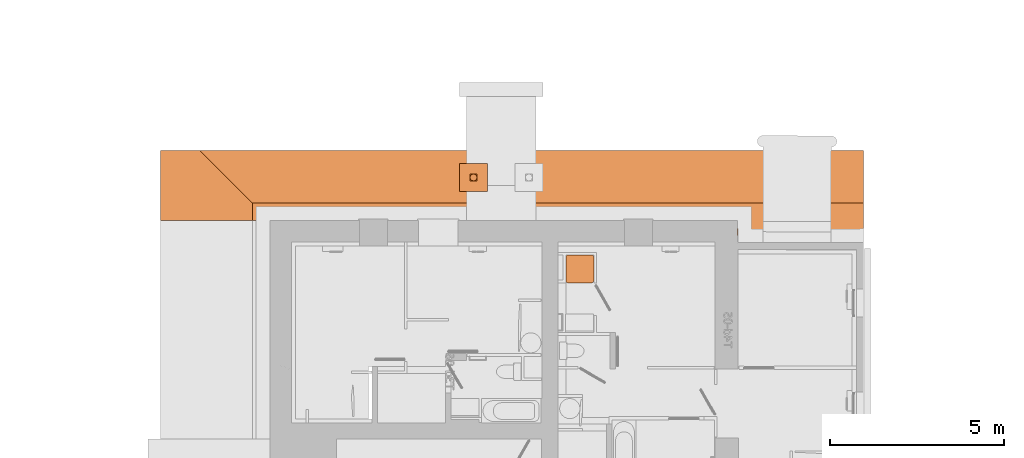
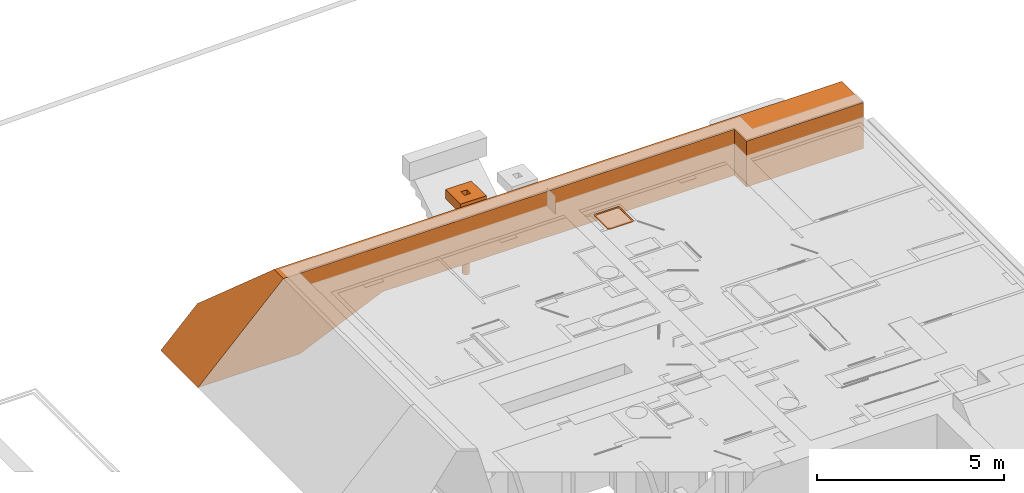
# Not in any storey, part 20 of 22: 3 proxies.
"""IFC4 model written with IfcOpenShell, lengths in metres."""

from ifc_helpers import new_model, si_unit, direction, origin_with_axes, place, context, subcontext, project, faceted_brep, element, save


model = new_model("IFC4")

# Units and contexts
model_context = context("Model", 3, precision=1e-05, world=origin_with_axes(), true_north=direction((1.0, 0.0)))
body_context = subcontext(model_context, "Body", "Model", "MODEL_VIEW")
ifc_project = project(units=[si_unit("LENGTHUNIT", "METRE"), si_unit("AREAUNIT", "SQUARE_METRE"), si_unit("VOLUMEUNIT", "CUBIC_METRE"), si_unit("MASSUNIT", "GRAM", prefix="KILO"), si_unit("TIMEUNIT", "SECOND"), si_unit("PLANEANGLEUNIT", "RADIAN"), si_unit("SOLIDANGLEUNIT", "STERADIAN")], contexts=[model_context])

# Proxies
placement = place(None, origin_with_axes())
element("IfcBuildingElementProxy", 1, at=placement, Name="Bloc Douche 2", PredefinedType="NOTDEFINED", context=body_context, shape_type="AdvancedBrep", body=[
    faceted_brep([(148.793105, 29.085943, 2.31), (148.793105, 28.417131, 2.31), (148.793268, 28.412706, 2.31), (148.793719, 28.408301, 2.31), (148.794455, 28.403934, 2.31), (148.795473, 28.399625, 2.31), (148.79677, 28.395391, 2.31), (148.798339, 28.39125, 2.31), (148.800175, 28.38722, 2.31), (148.802269, 28.383318, 2.31), (148.804612, 28.379561, 2.31), (148.807194, 28.375964, 2.31), (148.810005, 28.372542, 2.31), (148.813033, 28.369311, 2.31), (148.816264, 28.366283, 2.31), (148.819685, 28.363472, 2.31), (148.823282, 28.36089, 2.31), (148.82704, 28.358546, 2.31), (148.830942, 28.356453, 2.31), (148.834972, 28.354617, 2.31), (148.839112, 28.353048, 2.31), (148.843346, 28.351751, 2.31), (148.847656, 28.350732, 2.31), (148.852022, 28.349996, 2.31), (148.856427, 28.349546, 2.31), (148.860853, 28.349402, 2.31), (149.529666, 28.349402, 2.31), (149.534091, 28.349546, 2.31), (149.538496, 28.349996, 2.31), (149.542863, 28.350732, 2.31), (149.547172, 28.351751, 2.31), (149.551406, 28.353048, 2.31), (149.555546, 28.354617, 2.31), (149.559576, 28.356453, 2.31), (149.563478, 28.358547, 2.31), (149.567235, 28.36089, 2.31), (149.570832, 28.363472, 2.31), (149.574254, 28.366283, 2.31), (149.577485, 28.369311, 2.31), (149.580513, 28.372542, 2.31), (149.583324, 28.375964, 2.31), (149.585906, 28.379561, 2.31), (149.588249, 28.383319, 2.31), (149.590343, 28.38722, 2.31), (149.592178, 28.39125, 2.31), (149.593747, 28.395391, 2.31), (149.595044, 28.399625, 2.31), (149.596063, 28.403934, 2.31), (149.596799, 28.408301, 2.31), (149.597249, 28.412706, 2.31), (149.597412, 28.417131, 2.31), (149.597412, 29.085943, 2.31), (149.597249, 29.090368, 2.31), (149.596799, 29.094774, 2.31), (149.596063, 29.09914, 2.31), (149.595044, 29.10345, 2.31), (149.593748, 29.107684, 2.31), (149.592178, 29.111824, 2.31), (149.590343, 29.115854, 2.31), (149.588249, 29.119756, 2.31), (149.585906, 29.123514, 2.31), (149.583324, 29.127111, 2.31), (149.580513, 29.130532, 2.31), (149.577485, 29.133764, 2.31), (149.574254, 29.136791, 2.31), (149.570833, 29.139602, 2.31), (149.567236, 29.142185, 2.31), (149.563478, 29.144528, 2.31), (149.559576, 29.146622, 2.31), (149.555547, 29.148457, 2.31), (149.551406, 29.150027, 2.31), (149.547172, 29.151323, 2.31), (149.542863, 29.152342, 2.31), (149.538496, 29.153078, 2.31), (149.534091, 29.153529, 2.31), (149.529666, 29.153673, 2.31), (148.860852, 29.153692, 2.31), (148.856427, 29.153529, 2.31), (148.852022, 29.153078, 2.31), (148.847656, 29.152342, 2.31), (148.843346, 29.151324, 2.31), (148.839112, 29.150027, 2.31), (148.834971, 29.148457, 2.31), (148.830942, 29.146622, 2.31), (148.82704, 29.144528, 2.31), (148.823282, 29.142185, 2.31), (148.819685, 29.139603, 2.31), (148.816264, 29.136792, 2.31), (148.813032, 29.133764, 2.31), (148.810005, 29.130533, 2.31), (148.807194, 29.127111, 2.31), (148.804611, 29.123514, 2.31), (148.802268, 29.119756, 2.31), (148.800175, 29.115854, 2.31), (148.798339, 29.111824, 2.31), (148.79677, 29.107684, 2.31), (148.795473, 29.10345, 2.31), (148.794455, 29.09914, 2.31), (148.793719, 29.094774, 2.31), (148.793268, 29.090369, 2.31), (148.835455, 28.458941, 2.31), (148.835435, 28.459459, 2.31), (148.835455, 29.035147, 2.31), (148.835599, 29.039572, 2.31), (148.836049, 29.043978, 2.31), (148.836785, 29.048344, 2.31), (148.837803, 29.052654, 2.31), (148.8391, 29.056888, 2.31), (148.840669, 29.061028, 2.31), (148.842505, 29.065058, 2.31), (148.844598, 29.06896, 2.31), (148.846941, 29.072718, 2.31), (148.849524, 29.076315, 2.31), (148.852335, 29.079736, 2.31), (148.855362, 29.082968, 2.31), (148.858594, 29.085995, 2.31), (148.862015, 29.088806, 2.31), (148.865612, 29.091389, 2.31), (148.869369, 29.093732, 2.31), (148.873271, 29.095826, 2.31), (148.877301, 29.097661, 2.31), (148.881442, 29.099231, 2.31), (148.885676, 29.100527, 2.31), (148.889985, 29.101546, 2.31), (148.894352, 29.102282, 2.31), (148.898757, 29.102733, 2.31), (148.903182, 29.102896, 2.31), (149.47887, 29.102877, 2.31), (149.483295, 29.102733, 2.31), (149.4877, 29.102282, 2.31), (149.492067, 29.101546, 2.31), (149.496376, 29.100527, 2.31), (149.50061, 29.099231, 2.31), (149.504751, 29.097661, 2.31), (149.508781, 29.095826, 2.31), (149.512682, 29.093732, 2.31), (149.51644, 29.091389, 2.31), (149.520037, 29.088806, 2.31), (149.523458, 29.085995, 2.31), (149.52669, 29.082968, 2.31), (149.529717, 29.079736, 2.31), (149.532528, 29.076315, 2.31), (149.535111, 29.072718, 2.31), (149.537454, 29.06896, 2.31), (149.539548, 29.065058, 2.31), (149.541383, 29.061028, 2.31), (149.542952, 29.056888, 2.31), (149.544249, 29.052654, 2.31), (149.545268, 29.048344, 2.31), (149.546004, 29.043978, 2.31), (149.546454, 29.039572, 2.31), (149.546617, 29.035147, 2.31), (149.546598, 28.459459, 2.31), (149.546454, 28.455034, 2.31), (149.546003, 28.450629, 2.31), (149.545267, 28.446263, 2.31), (149.544249, 28.441953, 2.31), (149.542952, 28.43772, 2.31), (149.541382, 28.433579, 2.31), (149.539547, 28.429549, 2.31), (149.537453, 28.425648, 2.31), (149.53511, 28.42189, 2.31), (149.532528, 28.418293, 2.31), (149.529717, 28.414872, 2.31), (149.526689, 28.41164, 2.31), (149.523458, 28.408613, 2.31), (149.520036, 28.405802, 2.31), (149.516439, 28.40322, 2.31), (149.512682, 28.400877, 2.31), (149.50878, 28.398783, 2.31), (149.50475, 28.396948, 2.31), (149.50061, 28.395378, 2.31), (149.496376, 28.394081, 2.31), (149.492066, 28.393063, 2.31), (149.4877, 28.392327, 2.31), (149.483295, 28.391876, 2.31), (149.47887, 28.391732, 2.31), (148.903182, 28.391732, 2.31), (148.898757, 28.391876, 2.31), (148.894352, 28.392327, 2.31), (148.889985, 28.393063, 2.31), (148.885676, 28.394081, 2.31), (148.881442, 28.395378, 2.31), (148.877302, 28.396948, 2.31), (148.873272, 28.398783, 2.31), (148.86937, 28.400877, 2.31), (148.865613, 28.40322, 2.31), (148.862016, 28.405802, 2.31), (148.858594, 28.408613, 2.31), (148.855363, 28.411641, 2.31), (148.852336, 28.414872, 2.31), (148.849525, 28.418293, 2.31), (148.846942, 28.42189, 2.31), (148.844599, 28.425648, 2.31), (148.842506, 28.429549, 2.31), (148.84067, 28.433579, 2.31), (148.839101, 28.43772, 2.31), (148.837804, 28.441954, 2.31), (148.836785, 28.446263, 2.31), (148.836049, 28.450629, 2.31), (148.835599, 28.455034, 2.31), (148.793105, 28.417131, 2.28), (148.793105, 29.085943, 2.28), (148.793268, 29.090369, 2.28), (148.793719, 29.094774, 2.28), (148.794455, 29.09914, 2.28), (148.795473, 29.10345, 2.28), (148.79677, 29.107684, 2.28), (148.798339, 29.111824, 2.28), (148.800175, 29.115854, 2.28), (148.802268, 29.119756, 2.28), (148.804611, 29.123514, 2.28), (148.807194, 29.127111, 2.28), (148.810005, 29.130533, 2.28), (148.813032, 29.133764, 2.28), (148.816264, 29.136792, 2.28), (148.819685, 29.139603, 2.28), (148.823282, 29.142185, 2.28), (148.82704, 29.144528, 2.28), (148.830942, 29.146622, 2.28), (148.834971, 29.148457, 2.28), (148.839112, 29.150027, 2.28), (148.843346, 29.151324, 2.28), (148.847656, 29.152342, 2.28), (148.852022, 29.153078, 2.28), (148.856427, 29.153529, 2.28), (148.860852, 29.153692, 2.28), (149.529666, 29.153673, 2.28), (149.534091, 29.153529, 2.28), (149.538496, 29.153078, 2.28), (149.542863, 29.152342, 2.28), (149.547172, 29.151323, 2.28), (149.551406, 29.150027, 2.28), (149.555547, 29.148457, 2.28), (149.559576, 29.146622, 2.28), (149.563478, 29.144528, 2.28), (149.567236, 29.142185, 2.28), (149.570833, 29.139602, 2.28), (149.574254, 29.136791, 2.28), (149.577485, 29.133764, 2.28), (149.580513, 29.130532, 2.28), (149.583324, 29.127111, 2.28), (149.585906, 29.123514, 2.28), (149.588249, 29.119756, 2.28), (149.590343, 29.115854, 2.28), (149.592178, 29.111824, 2.28), (149.593748, 29.107684, 2.28), (149.595044, 29.10345, 2.28), (149.596063, 29.09914, 2.28), (149.596799, 29.094774, 2.28), (149.597249, 29.090368, 2.28), (149.597412, 29.085943, 2.28), (149.597412, 28.417131, 2.28), (149.597249, 28.412706, 2.28), (149.596799, 28.408301, 2.28), (149.596063, 28.403934, 2.28), (149.595044, 28.399625, 2.28), (149.593747, 28.395391, 2.28), (149.592178, 28.39125, 2.28), (149.590343, 28.38722, 2.28), (149.588249, 28.383319, 2.28), (149.585906, 28.379561, 2.28), (149.583324, 28.375964, 2.28), (149.580513, 28.372542, 2.28), (149.577485, 28.369311, 2.28), (149.574254, 28.366283, 2.28), (149.570832, 28.363472, 2.28), (149.567235, 28.36089, 2.28), (149.563478, 28.358547, 2.28), (149.559576, 28.356453, 2.28), (149.555546, 28.354617, 2.28), (149.551406, 28.353048, 2.28), (149.547172, 28.351751, 2.28), (149.542863, 28.350732, 2.28), (149.538496, 28.349996, 2.28), (149.534091, 28.349546, 2.28), (149.529666, 28.349402, 2.28), (148.860853, 28.349402, 2.28), (148.856427, 28.349546, 2.28), (148.852022, 28.349996, 2.28), (148.847656, 28.350732, 2.28), (148.843346, 28.351751, 2.28), (148.839112, 28.353048, 2.28), (148.834972, 28.354617, 2.28), (148.830942, 28.356453, 2.28), (148.82704, 28.358546, 2.28), (148.823282, 28.36089, 2.28), (148.819685, 28.363472, 2.28), (148.816264, 28.366283, 2.28), (148.813033, 28.369311, 2.28), (148.810005, 28.372542, 2.28), (148.807194, 28.375964, 2.28), (148.804612, 28.379561, 2.28), (148.802269, 28.383318, 2.28), (148.800175, 28.38722, 2.28), (148.798339, 28.39125, 2.28), (148.79677, 28.395391, 2.28), (148.795473, 28.399625, 2.28), (148.794455, 28.403934, 2.28), (148.793719, 28.408301, 2.28), (148.793268, 28.412706, 2.28), (148.835435, 28.459459, 2.28), (148.835455, 28.458941, 2.28), (148.835599, 28.455034, 2.28), (148.836049, 28.450629, 2.28), (148.836785, 28.446263, 2.28), (148.837804, 28.441954, 2.28), (148.839101, 28.43772, 2.28), (148.84067, 28.433579, 2.28), (148.842506, 28.429549, 2.28), (148.844599, 28.425648, 2.28), (148.846942, 28.42189, 2.28), (148.849525, 28.418293, 2.28), (148.852336, 28.414872, 2.28), (148.855363, 28.411641, 2.28), (148.858594, 28.408613, 2.28), (148.862016, 28.405802, 2.28), (148.865613, 28.40322, 2.28), (148.86937, 28.400877, 2.28), (148.873272, 28.398783, 2.28), (148.877302, 28.396948, 2.28), (148.881442, 28.395378, 2.28), (148.885676, 28.394081, 2.28), (148.889985, 28.393063, 2.28), (148.894352, 28.392327, 2.28), (148.898757, 28.391876, 2.28), (148.903182, 28.391732, 2.28), (149.47887, 28.391732, 2.28), (149.483295, 28.391876, 2.28), (149.4877, 28.392327, 2.28), (149.492066, 28.393063, 2.28), (149.496376, 28.394081, 2.28), (149.50061, 28.395378, 2.28), (149.50475, 28.396948, 2.28), (149.50878, 28.398783, 2.28), (149.512682, 28.400877, 2.28), (149.516439, 28.40322, 2.28), (149.520036, 28.405802, 2.28), (149.523458, 28.408613, 2.28), (149.526689, 28.41164, 2.28), (149.529717, 28.414872, 2.28), (149.532528, 28.418293, 2.28), (149.53511, 28.42189, 2.28), (149.537453, 28.425648, 2.28), (149.539547, 28.429549, 2.28), (149.541382, 28.433579, 2.28), (149.542952, 28.43772, 2.28), (149.544249, 28.441953, 2.28), (149.545267, 28.446263, 2.28), (149.546003, 28.450629, 2.28), (149.546454, 28.455034, 2.28), (149.546598, 28.459459, 2.28), (149.546617, 29.035147, 2.28), (149.546454, 29.039572, 2.28), (149.546004, 29.043978, 2.28), (149.545268, 29.048344, 2.28), (149.544249, 29.052654, 2.28), (149.542952, 29.056888, 2.28), (149.541383, 29.061028, 2.28), (149.539548, 29.065058, 2.28), (149.537454, 29.06896, 2.28), (149.535111, 29.072718, 2.28), (149.532528, 29.076315, 2.28), (149.529717, 29.079736, 2.28), (149.52669, 29.082968, 2.28), (149.523458, 29.085995, 2.28), (149.520037, 29.088806, 2.28), (149.51644, 29.091389, 2.28), (149.512682, 29.093732, 2.28), (149.508781, 29.095826, 2.28), (149.504751, 29.097661, 2.28), (149.50061, 29.099231, 2.28), (149.496376, 29.100527, 2.28), (149.492067, 29.101546, 2.28), (149.4877, 29.102282, 2.28), (149.483295, 29.102733, 2.28), (149.47887, 29.102877, 2.28), (148.903182, 29.102896, 2.28), (148.898757, 29.102733, 2.28), (148.894352, 29.102282, 2.28), (148.889985, 29.101546, 2.28), (148.885676, 29.100527, 2.28), (148.881442, 29.099231, 2.28), (148.877301, 29.097661, 2.28), (148.873271, 29.095826, 2.28), (148.869369, 29.093732, 2.28), (148.865612, 29.091389, 2.28), (148.862015, 29.088806, 2.28), (148.858594, 29.085995, 2.28), (148.855362, 29.082968, 2.28), (148.852335, 29.079736, 2.28), (148.849524, 29.076315, 2.28), (148.846941, 29.072718, 2.28), (148.844598, 29.06896, 2.28), (148.842505, 29.065058, 2.28), (148.840669, 29.061028, 2.28), (148.8391, 29.056888, 2.28), (148.837803, 29.052654, 2.28), (148.836785, 29.048344, 2.28), (148.836049, 29.043978, 2.28), (148.835599, 29.039572, 2.28), (148.835455, 29.035147, 2.28), (148.835435, 28.459459, 2.3), (148.835455, 28.458941, 2.3), (148.835599, 28.455034, 2.3), (148.836049, 28.450629, 2.3), (148.836785, 28.446263, 2.3), (148.837804, 28.441954, 2.3), (148.839101, 28.43772, 2.3), (148.84067, 28.433579, 2.3), (148.842506, 28.429549, 2.3), (148.844599, 28.425648, 2.3), (148.846942, 28.42189, 2.3), (148.849525, 28.418293, 2.3), (148.852336, 28.414872, 2.3), (148.855363, 28.411641, 2.3), (148.858594, 28.408613, 2.3), (148.862016, 28.405802, 2.3), (148.865613, 28.40322, 2.3), (148.86937, 28.400877, 2.3), (148.873272, 28.398783, 2.3), (148.877302, 28.396948, 2.3), (148.881442, 28.395378, 2.3), (148.885676, 28.394081, 2.3), (148.889985, 28.393063, 2.3), (148.894352, 28.392327, 2.3), (148.898757, 28.391876, 2.3), (148.903182, 28.391732, 2.3), (149.47887, 28.391732, 2.3), (149.483295, 28.391876, 2.3), (149.4877, 28.392327, 2.3), (149.492066, 28.393063, 2.3), (149.496376, 28.394081, 2.3), (149.50061, 28.395378, 2.3), (149.50475, 28.396948, 2.3), (149.50878, 28.398783, 2.3), (149.512682, 28.400877, 2.3), (149.516439, 28.40322, 2.3), (149.520036, 28.405802, 2.3), (149.523458, 28.408613, 2.3), (149.526689, 28.41164, 2.3), (149.529717, 28.414872, 2.3), (149.532528, 28.418293, 2.3), (149.53511, 28.42189, 2.3), (149.537453, 28.425648, 2.3), (149.539547, 28.429549, 2.3), (149.541382, 28.433579, 2.3), (149.542952, 28.43772, 2.3), (149.544249, 28.441953, 2.3), (149.545267, 28.446263, 2.3), (149.546003, 28.450629, 2.3), (149.546454, 28.455034, 2.3), (149.546598, 28.459459, 2.3), (149.546617, 29.035147, 2.3), (149.546454, 29.039572, 2.3), (149.546004, 29.043978, 2.3), (149.545268, 29.048344, 2.3), (149.544249, 29.052654, 2.3), (149.542952, 29.056888, 2.3), (149.541383, 29.061028, 2.3), (149.539548, 29.065058, 2.3), (149.537454, 29.06896, 2.3), (149.535111, 29.072718, 2.3), (149.532528, 29.076315, 2.3), (149.529717, 29.079736, 2.3), (149.52669, 29.082968, 2.3), (149.523458, 29.085995, 2.3), (149.520037, 29.088806, 2.3), (149.51644, 29.091389, 2.3), (149.512682, 29.093732, 2.3), (149.508781, 29.095826, 2.3), (149.504751, 29.097661, 2.3), (149.50061, 29.099231, 2.3), (149.496376, 29.100527, 2.3), (149.492067, 29.101546, 2.3), (149.4877, 29.102282, 2.3), (149.483295, 29.102733, 2.3), (149.47887, 29.102877, 2.3), (148.903182, 29.102896, 2.3), (148.898757, 29.102733, 2.3), (148.894352, 29.102282, 2.3), (148.889985, 29.101546, 2.3), (148.885676, 29.100527, 2.3), (148.881442, 29.099231, 2.3), (148.877301, 29.097661, 2.3), (148.873271, 29.095826, 2.3), (148.869369, 29.093732, 2.3), (148.865612, 29.091389, 2.3), (148.862015, 29.088806, 2.3), (148.858594, 29.085995, 2.3), (148.855362, 29.082968, 2.3), (148.852335, 29.079736, 2.3), (148.849524, 29.076315, 2.3), (148.846941, 29.072718, 2.3), (148.844598, 29.06896, 2.3), (148.842505, 29.065058, 2.3), (148.840669, 29.061028, 2.3), (148.8391, 29.056888, 2.3), (148.837803, 29.052654, 2.3), (148.836785, 29.048344, 2.3), (148.836049, 29.043978, 2.3), (148.835599, 29.039572, 2.3), (148.835455, 29.035147, 2.3)], [[[0, 1, 2, 3, 4, 5, 6, 7, 8, 9, 10, 11, 12, 13, 14, 15, 16, 17, 18, 19, 20, 21, 22, 23, 24, 25, 26, 27, 28, 29, 30, 31, 32, 33, 34, 35, 36, 37, 38, 39, 40, 41, 42, 43, 44, 45, 46, 47, 48, 49, 50, 51, 52, 53, 54, 55, 56, 57, 58, 59, 60, 61, 62, 63, 64, 65, 66, 67, 68, 69, 70, 71, 72, 73, 74, 75, 76, 77, 78, 79, 80, 81, 82, 83, 84, 85, 86, 87, 88, 89, 90, 91, 92, 93, 94, 95, 96, 97, 98, 99], [100, 101, 102, 103, 104, 105, 106, 107, 108, 109, 110, 111, 112, 113, 114, 115, 116, 117, 118, 119, 120, 121, 122, 123, 124, 125, 126, 127, 128, 129, 130, 131, 132, 133, 134, 135, 136, 137, 138, 139, 140, 141, 142, 143, 144, 145, 146, 147, 148, 149, 150, 151, 152, 153, 154, 155, 156, 157, 158, 159, 160, 161, 162, 163, 164, 165, 166, 167, 168, 169, 170, 171, 172, 173, 174, 175, 176, 177, 178, 179, 180, 181, 182, 183, 184, 185, 186, 187, 188, 189, 190, 191, 192, 193, 194, 195, 196, 197, 198, 199, 200]], [[201, 202, 203, 204, 205, 206, 207, 208, 209, 210, 211, 212, 213, 214, 215, 216, 217, 218, 219, 220, 221, 222, 223, 224, 225, 226, 227, 228, 229, 230, 231, 232, 233, 234, 235, 236, 237, 238, 239, 240, 241, 242, 243, 244, 245, 246, 247, 248, 249, 250, 251, 252, 253, 254, 255, 256, 257, 258, 259, 260, 261, 262, 263, 264, 265, 266, 267, 268, 269, 270, 271, 272, 273, 274, 275, 276, 277, 278, 279, 280, 281, 282, 283, 284, 285, 286, 287, 288, 289, 290, 291, 292, 293, 294, 295, 296, 297, 298, 299, 300], [301, 302, 303, 304, 305, 306, 307, 308, 309, 310, 311, 312, 313, 314, 315, 316, 317, 318, 319, 320, 321, 322, 323, 324, 325, 326, 327, 328, 329, 330, 331, 332, 333, 334, 335, 336, 337, 338, 339, 340, 341, 342, 343, 344, 345, 346, 347, 348, 349, 350, 351, 352, 353, 354, 355, 356, 357, 358, 359, 360, 361, 362, 363, 364, 365, 366, 367, 368, 369, 370, 371, 372, 373, 374, 375, 376, 377, 378, 379, 380, 381, 382, 383, 384, 385, 386, 387, 388, 389, 390, 391, 392, 393, 394, 395, 396, 397, 398, 399, 400, 401]], [[1, 0, 202, 201]], [[0, 99, 203, 202]], [[99, 98, 204, 203]], [[98, 97, 205, 204]], [[97, 96, 206, 205]], [[96, 95, 207, 206]], [[95, 94, 208, 207]], [[94, 93, 209, 208]], [[93, 92, 210, 209]], [[92, 91, 211, 210]], [[91, 90, 212, 211]], [[90, 89, 213, 212]], [[89, 88, 214, 213]], [[88, 87, 215, 214]], [[87, 86, 216, 215]], [[86, 85, 217, 216]], [[85, 84, 218, 217]], [[84, 83, 219, 218]], [[83, 82, 220, 219]], [[82, 81, 221, 220]], [[81, 80, 222, 221]], [[80, 79, 223, 222]], [[79, 78, 224, 223]], [[78, 77, 225, 224]], [[77, 76, 226, 225]], [[76, 75, 227, 226]], [[75, 74, 228, 227]], [[74, 73, 229, 228]], [[73, 72, 230, 229]], [[72, 71, 231, 230]], [[71, 70, 232, 231]], [[70, 69, 233, 232]], [[69, 68, 234, 233]], [[68, 67, 235, 234]], [[67, 66, 236, 235]], [[66, 65, 237, 236]], [[65, 64, 238, 237]], [[64, 63, 239, 238]], [[63, 62, 240, 239]], [[62, 61, 241, 240]], [[61, 60, 242, 241]], [[60, 59, 243, 242]], [[59, 58, 244, 243]], [[58, 57, 245, 244]], [[57, 56, 246, 245]], [[56, 55, 247, 246]], [[55, 54, 248, 247]], [[54, 53, 249, 248]], [[53, 52, 250, 249]], [[52, 51, 251, 250]], [[51, 50, 252, 251]], [[50, 49, 253, 252]], [[49, 48, 254, 253]], [[48, 47, 255, 254]], [[47, 46, 256, 255]], [[46, 45, 257, 256]], [[45, 44, 258, 257]], [[44, 43, 259, 258]], [[43, 42, 260, 259]], [[42, 41, 261, 260]], [[41, 40, 262, 261]], [[40, 39, 263, 262]], [[39, 38, 264, 263]], [[38, 37, 265, 264]], [[37, 36, 266, 265]], [[36, 35, 267, 266]], [[35, 34, 268, 267]], [[34, 33, 269, 268]], [[33, 32, 270, 269]], [[32, 31, 271, 270]], [[31, 30, 272, 271]], [[30, 29, 273, 272]], [[29, 28, 274, 273]], [[28, 27, 275, 274]], [[27, 26, 276, 275]], [[26, 25, 277, 276]], [[25, 24, 278, 277]], [[24, 23, 279, 278]], [[23, 22, 280, 279]], [[22, 21, 281, 280]], [[21, 20, 282, 281]], [[20, 19, 283, 282]], [[19, 18, 284, 283]], [[18, 17, 285, 284]], [[17, 16, 286, 285]], [[16, 15, 287, 286]], [[15, 14, 288, 287]], [[14, 13, 289, 288]], [[13, 12, 290, 289]], [[12, 11, 291, 290]], [[11, 10, 292, 291]], [[10, 9, 293, 292]], [[9, 8, 294, 293]], [[8, 7, 295, 294]], [[7, 6, 296, 295]], [[6, 5, 297, 296]], [[5, 4, 298, 297]], [[4, 3, 299, 298]], [[3, 2, 300, 299]], [[2, 1, 201, 300]], [[301, 402, 403, 302]], [[302, 403, 404, 303]], [[303, 404, 405, 304]], [[304, 405, 406, 305]], [[305, 406, 407, 306]], [[306, 407, 408, 307]], [[307, 408, 409, 308]], [[308, 409, 410, 309]], [[309, 410, 411, 310]], [[310, 411, 412, 311]], [[311, 412, 413, 312]], [[312, 413, 414, 313]], [[313, 414, 415, 314]], [[314, 415, 416, 315]], [[315, 416, 417, 316]], [[316, 417, 418, 317]], [[317, 418, 419, 318]], [[318, 419, 420, 319]], [[319, 420, 421, 320]], [[320, 421, 422, 321]], [[321, 422, 423, 322]], [[322, 423, 424, 323]], [[323, 424, 425, 324]], [[324, 425, 426, 325]], [[325, 426, 427, 326]], [[326, 427, 428, 327]], [[327, 428, 429, 328]], [[328, 429, 430, 329]], [[329, 430, 431, 330]], [[330, 431, 432, 331]], [[331, 432, 433, 332]], [[332, 433, 434, 333]], [[333, 434, 435, 334]], [[334, 435, 436, 335]], [[335, 436, 437, 336]], [[336, 437, 438, 337]], [[337, 438, 439, 338]], [[338, 439, 440, 339]], [[339, 440, 441, 340]], [[340, 441, 442, 341]], [[341, 442, 443, 342]], [[342, 443, 444, 343]], [[343, 444, 445, 344]], [[344, 445, 446, 345]], [[345, 446, 447, 346]], [[346, 447, 448, 347]], [[347, 448, 449, 348]], [[348, 449, 450, 349]], [[349, 450, 451, 350]], [[350, 451, 452, 351]], [[351, 452, 453, 352]], [[352, 453, 454, 353]], [[353, 454, 455, 354]], [[354, 455, 456, 355]], [[355, 456, 457, 356]], [[356, 457, 458, 357]], [[357, 458, 459, 358]], [[358, 459, 460, 359]], [[359, 460, 461, 360]], [[360, 461, 462, 361]], [[361, 462, 463, 362]], [[362, 463, 464, 363]], [[363, 464, 465, 364]], [[364, 465, 466, 365]], [[365, 466, 467, 366]], [[366, 467, 468, 367]], [[367, 468, 469, 368]], [[368, 469, 470, 369]], [[369, 470, 471, 370]], [[370, 471, 472, 371]], [[371, 472, 473, 372]], [[372, 473, 474, 373]], [[373, 474, 475, 374]], [[374, 475, 476, 375]], [[375, 476, 477, 376]], [[376, 477, 478, 377]], [[377, 478, 479, 378]], [[378, 479, 480, 379]], [[379, 480, 481, 380]], [[380, 481, 482, 381]], [[381, 482, 483, 382]], [[382, 483, 484, 383]], [[383, 484, 485, 384]], [[384, 485, 486, 385]], [[385, 486, 487, 386]], [[386, 487, 488, 387]], [[387, 488, 489, 388]], [[388, 489, 490, 389]], [[389, 490, 491, 390]], [[390, 491, 492, 391]], [[391, 492, 493, 392]], [[392, 493, 494, 393]], [[393, 494, 495, 394]], [[394, 495, 496, 395]], [[395, 496, 497, 396]], [[396, 497, 498, 397]], [[397, 498, 499, 398]], [[398, 499, 500, 399]], [[399, 500, 501, 400]], [[400, 501, 502, 401]], [[401, 502, 402, 301]], [[403, 402, 502, 501, 500, 499, 498, 497, 496, 495, 494, 493, 492, 491, 490, 489, 488, 487, 486, 485, 484, 483, 482, 481, 480, 479, 478, 477, 476, 475, 474, 473, 472, 471, 470, 469, 468, 467, 466, 465, 464, 463, 462, 461, 460, 459, 458, 457, 456, 455, 454, 453, 452, 451, 450, 449, 448, 447, 446, 445, 444, 443, 442, 441, 440, 439, 438, 437, 436, 435, 434, 433, 432, 431, 430, 429, 428, 427, 426, 425, 424, 423, 422, 421, 420, 419, 418, 417, 416, 415, 414, 413, 412, 411, 410, 409, 408, 407, 406, 405, 404]], [[101, 100, 403, 402]], [[102, 101, 402, 502]], [[103, 102, 502, 501]], [[104, 103, 501, 500]], [[105, 104, 500, 499]], [[106, 105, 499, 498]], [[107, 106, 498, 497]], [[108, 107, 497, 496]], [[109, 108, 496, 495]], [[110, 109, 495, 494]], [[111, 110, 494, 493]], [[112, 111, 493, 492]], [[113, 112, 492, 491]], [[114, 113, 491, 490]], [[115, 114, 490, 489]], [[116, 115, 489, 488]], [[117, 116, 488, 487]], [[118, 117, 487, 486]], [[119, 118, 486, 485]], [[120, 119, 485, 484]], [[121, 120, 484, 483]], [[122, 121, 483, 482]], [[123, 122, 482, 481]], [[124, 123, 481, 480]], [[125, 124, 480, 479]], [[126, 125, 479, 478]], [[127, 126, 478, 477]], [[128, 127, 477, 476]], [[129, 128, 476, 475]], [[130, 129, 475, 474]], [[131, 130, 474, 473]], [[132, 131, 473, 472]], [[133, 132, 472, 471]], [[134, 133, 471, 470]], [[135, 134, 470, 469]], [[136, 135, 469, 468]], [[137, 136, 468, 467]], [[138, 137, 467, 466]], [[139, 138, 466, 465]], [[140, 139, 465, 464]], [[141, 140, 464, 463]], [[142, 141, 463, 462]], [[143, 142, 462, 461]], [[144, 143, 461, 460]], [[145, 144, 460, 459]], [[146, 145, 459, 458]], [[147, 146, 458, 457]], [[148, 147, 457, 456]], [[149, 148, 456, 455]], [[150, 149, 455, 454]], [[151, 150, 454, 453]], [[152, 151, 453, 452]], [[153, 152, 452, 451]], [[154, 153, 451, 450]], [[155, 154, 450, 449]], [[156, 155, 449, 448]], [[157, 156, 448, 447]], [[158, 157, 447, 446]], [[159, 158, 446, 445]], [[160, 159, 445, 444]], [[161, 160, 444, 443]], [[162, 161, 443, 442]], [[163, 162, 442, 441]], [[164, 163, 441, 440]], [[165, 164, 440, 439]], [[166, 165, 439, 438]], [[167, 166, 438, 437]], [[168, 167, 437, 436]], [[169, 168, 436, 435]], [[170, 169, 435, 434]], [[171, 170, 434, 433]], [[172, 171, 433, 432]], [[173, 172, 432, 431]], [[174, 173, 431, 430]], [[175, 174, 430, 429]], [[176, 175, 429, 428]], [[177, 176, 428, 427]], [[178, 177, 427, 426]], [[179, 178, 426, 425]], [[180, 179, 425, 424]], [[181, 180, 424, 423]], [[182, 181, 423, 422]], [[183, 182, 422, 421]], [[184, 183, 421, 420]], [[185, 184, 420, 419]], [[186, 185, 419, 418]], [[187, 186, 418, 417]], [[188, 187, 417, 416]], [[189, 188, 416, 415]], [[190, 189, 415, 414]], [[191, 190, 414, 413]], [[192, 191, 413, 412]], [[193, 192, 412, 411]], [[194, 193, 411, 410]], [[195, 194, 410, 409]], [[196, 195, 409, 408]], [[197, 196, 408, 407]], [[198, 197, 407, 406]], [[199, 198, 406, 405]], [[200, 199, 405, 404]], [[100, 200, 404, 403]]]),
])
element("IfcBuildingElementProxy", 2, at=placement, Name="Undefined", PredefinedType="NOTDEFINED", context=body_context, shape_type="AdvancedBrep", body=[
    faceted_brep([(146.144325, 31.474735, 2.31), (146.242097, 31.474736, 2.31), (146.242097, 31.474736, 2.61), (146.047379, 31.474736, 2.61), (146.047379, 31.474736, 2.31), (146.544738, 31.777377, 2.31), (145.744738, 31.777377, 2.31), (145.744738, 31.777377, 2.61), (146.544738, 31.777377, 2.61), (146.544738, 31.472619, 2.31), (146.544738, 31.472619, 2.61), (145.744738, 30.977377, 2.61), (146.047379, 30.977377, 2.61), (146.544738, 30.977377, 2.61), (146.242097, 31.280017, 2.61), (146.047379, 31.280017, 2.61), (146.242097, 31.473907, 2.61), (146.047379, 31.383232, 2.31), (146.047379, 31.280017, 2.31), (146.047379, 31.370696, 2.31), (146.242097, 31.473907, 2.31), (146.544738, 30.977377, 2.31), (146.138061, 31.280017, 2.31), (146.242097, 31.280017, 2.31), (146.15059, 31.280017, 2.31), (145.744738, 30.977377, 2.31), (146.047379, 30.977377, 2.31), (146.049886, 31.402269, 2.31), (146.059653, 31.42585, 2.31), (146.075191, 31.446099, 2.31), (146.09544, 31.461636, 2.31), (146.11902, 31.471404, 2.31), (146.141293, 31.474336, 2.31), (146.144325, 31.279193, 2.31), (146.046554, 31.376964, 2.31), (146.14756, 31.474309, 2.31), (146.241272, 31.473911, 2.31), (146.242097, 31.376964, 2.31), (146.238765, 31.351659, 2.31), (146.228998, 31.328078, 2.31), (146.21346, 31.307829, 2.31), (146.193211, 31.292291, 2.31), (146.169631, 31.282524, 2.31), (146.075191, 31.307829, 2.31), (146.059653, 31.328078, 2.31), (146.049886, 31.351659, 2.31), (146.11902, 31.282524, 2.31), (146.09544, 31.292291, 2.31), (146.21346, 31.446099, 2.31), (146.228998, 31.42585, 2.31), (146.238765, 31.402269, 2.31), (146.169631, 31.471404, 2.31), (146.193211, 31.461636, 2.31), (146.059653, 31.328078, -0.01), (146.075191, 31.307829, -0.01), (146.09544, 31.292291, -0.01), (146.11902, 31.282524, -0.01), (146.138061, 31.280017, -0.01), (146.15059, 31.280017, -0.01), (146.169631, 31.282524, -0.01), (146.193211, 31.292291, -0.01), (146.21346, 31.307829, -0.01), (146.228998, 31.328078, -0.01), (146.238765, 31.351659, -0.01), (146.242097, 31.376964, -0.01), (146.238765, 31.402269, -0.01), (146.228998, 31.42585, -0.01), (146.21346, 31.446099, -0.01), (146.193211, 31.461636, -0.01), (146.169631, 31.471404, -0.01), (146.14756, 31.474309, -0.01), (146.141293, 31.474336, -0.01), (146.11902, 31.471404, -0.01), (146.09544, 31.461636, -0.01), (146.075191, 31.446099, -0.01), (146.059653, 31.42585, -0.01), (146.049886, 31.402269, -0.01), (146.047379, 31.383232, -0.01), (146.047379, 31.370696, -0.01), (146.049886, 31.351659, -0.01)], [[[0, 1, 2, 3, 4]], [[5, 6, 7, 8]], [[9, 5, 8, 10]], [[11, 12, 13, 10, 8, 7], [14, 15, 3, 2, 16]], [[17, 4, 3, 15, 18, 19]], [[1, 20, 16, 2]], [[21, 9, 10, 13]], [[22, 18, 15, 14, 23, 24]], [[25, 26, 12, 11]], [[4, 17, 27, 28, 29, 30, 31, 32]], [[6, 25, 11, 7]], [[26, 21, 13, 12]], [[26, 21, 9, 5, 6, 25], [23, 24, 33, 22, 18, 19, 34, 17, 4, 32, 35, 36, 20, 37]], [[37, 23, 14, 16, 20]], [[23, 37, 38, 39, 40, 41, 42, 24]], [[19, 17, 34]], [[18, 43, 44, 45, 19]], [[18, 22, 46, 47, 43]], [[24, 22, 33]], [[36, 48, 49, 50, 37, 20]], [[36, 35, 51, 52, 48]], [[53, 54, 55, 56, 57, 58, 59, 60, 61, 62, 63, 64, 65, 66, 67, 68, 69, 70, 71, 72, 73, 74, 75, 76, 77, 78, 79]], [[44, 43, 54, 53]], [[43, 47, 55, 54]], [[47, 46, 56, 55]], [[46, 22, 57, 56]], [[22, 24, 58, 57]], [[24, 42, 59, 58]], [[42, 41, 60, 59]], [[41, 40, 61, 60]], [[40, 39, 62, 61]], [[39, 38, 63, 62]], [[38, 37, 64, 63]], [[37, 50, 65, 64]], [[50, 49, 66, 65]], [[49, 48, 67, 66]], [[48, 52, 68, 67]], [[52, 51, 69, 68]], [[51, 35, 70, 69]], [[35, 32, 71, 70]], [[32, 31, 72, 71]], [[31, 30, 73, 72]], [[30, 29, 74, 73]], [[29, 28, 75, 74]], [[28, 27, 76, 75]], [[27, 17, 77, 76]], [[17, 19, 78, 77]], [[19, 45, 79, 78]], [[45, 44, 53, 79]]]),
])
element("IfcBuildingElementProxy", 3, at=placement, Name="Undefined", PredefinedType="NOTDEFINED", context=body_context, shape_type="Brep", body=[
    faceted_brep([(157.340962, 30.644193, 2.77), (157.340962, 29.503615, 2.77), (157.340961, 29.503615, 1.27), (157.340962, 32.144193, 1.27), (153.728799, 30.144193, 1.27), (142.866927, 30.144192, 1.27), (142.866927, 32.144193, 1.27), (153.728799, 29.503615, 1.27), (140.293267, 30.644193, 2.77), (140.293267, 30.144193, 2.77), (153.728799, 30.144193, 2.77), (153.728799, 29.503615, 2.77), (139.793267, 30.144193, 2.77), (137.157266, 30.144193, 0.134), (140.293267, 30.144193, 0.134), (140.293267, 32.144193, 0.134), (138.293267, 32.144193, 1.27), (139.793267, 30.644193, 2.77), (137.157266, 32.144193, 0.134)], [[[0, 1, 2, 3]], [[4, 5, 6, 3, 2, 7]], [[1, 0, 8, 9, 10, 11]], [[5, 4, 10, 9, 12, 13, 14]], [[6, 5, 14, 15]], [[6, 16, 17, 8, 0, 3]], [[17, 16, 18, 13, 12]], [[14, 13, 18, 15]], [[12, 9, 8, 17]], [[15, 18, 16, 6]], [[1, 11, 7, 2]], [[10, 4, 7, 11]]]),
])

save(model, "model.ifc")
